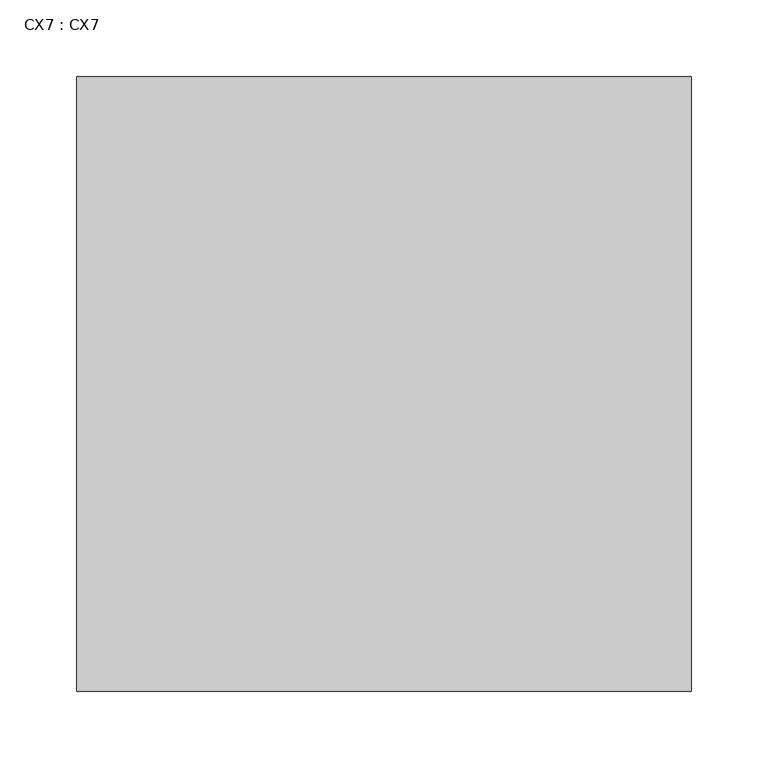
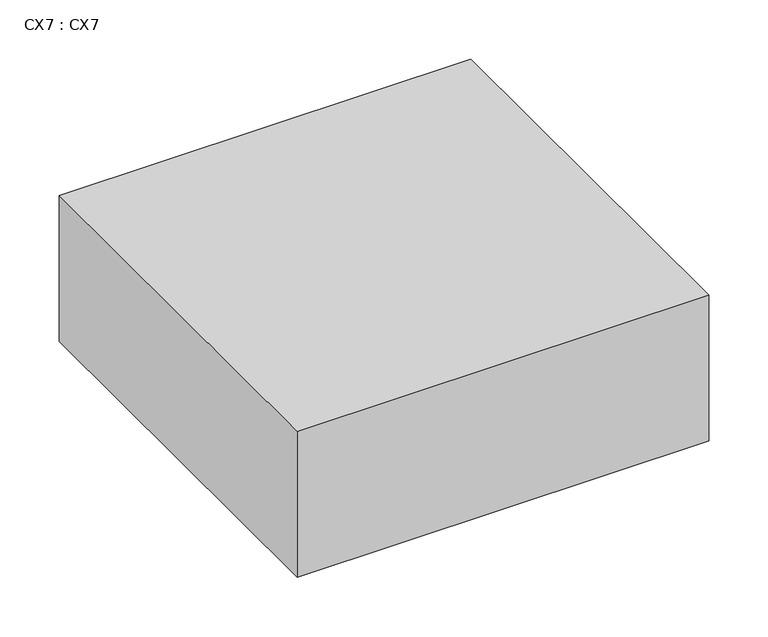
"""IFC4 building model written with IfcOpenShell, lengths in millimetres: proxy geometry, CX7 : CX7."""

from ifc_helpers import new_model, si_unit, frame, origin, place, context, project, spatial, polyline, outline, extrude, source, transform, mapped, element, save


def cx7_cx7_c3f9f5b6(model_context):
    return source(origin(), model_context, "Body", "SweptSolid", [
        extrude(outline(polyline([(14984.6, 14966.3), (15384.6, 14966.3), (15384.6, 14566.3), (14984.6, 14566.3), (14984.6, 14966.3)])), frame((0.0, 0.0, 2870.0), z_axis=(0.0, 0.0, 1.0), x_axis=(1.0, 0.0, 0.0)), (0.0, 0.0, 1.0), 150.0),
    ])


if __name__ == "__main__":
    model = new_model("IFC4")
    model_context = context("Model", 3, world=origin())
    ifc_project = project(units=[si_unit("LENGTHUNIT", "METRE", prefix="MILLI")], contexts=[model_context])
    site = spatial("IfcSite", under=ifc_project)
    building = spatial("IfcBuilding", under=site)
    placement = place(None, origin())
    cx7_cx7_shape = cx7_cx7_c3f9f5b6(model_context)
    element("IfcBuildingElementProxy", 1, Name="CX7 : CX7", ObjectType="CX7 : CX7", at=placement, inside=building, context=model_context, shape_type="MappedRepresentation", body=[
        mapped(cx7_cx7_shape, transform((0.0, 0.0, 0.0), x_axis=(1.0, 0.0, 0.0), y_axis=(0.0, 1.0, 0.0), z_axis=(0.0, 0.0, 1.0))),
    ])
    save(model, "model.ifc")
